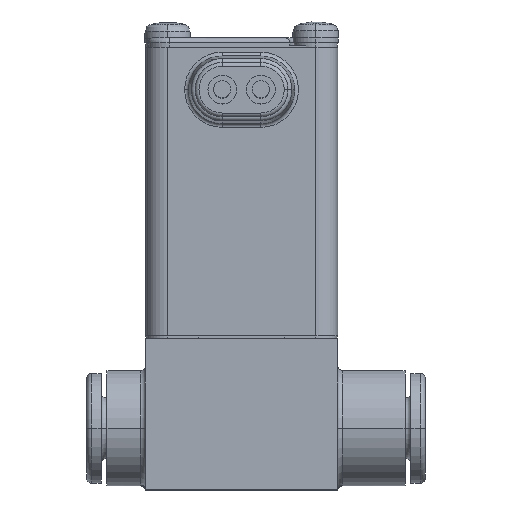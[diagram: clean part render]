
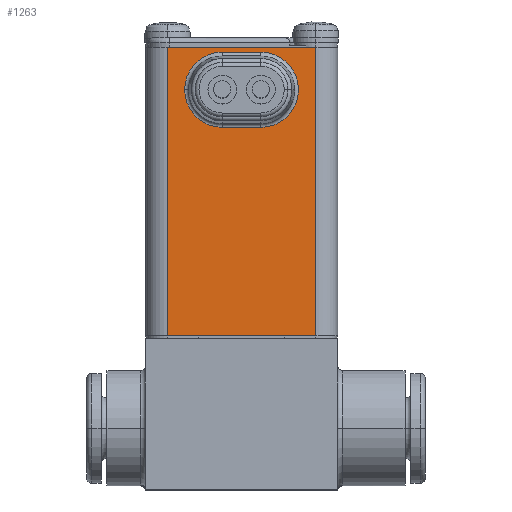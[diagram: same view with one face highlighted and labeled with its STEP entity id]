
A CAD part, top view. The second image highlights one B-rep face of the part: STEP entity #1263.
In plain terms, the highlighted planar face has unit normal (0, 0, 1).
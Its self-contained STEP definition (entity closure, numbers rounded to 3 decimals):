
#161 = DIRECTION ( 'NONE',  ( 0., -1., 0. ) ) ;
#227 = VECTOR ( 'NONE', #3368, 1000. ) ;
#448 = ORIENTED_EDGE ( 'NONE', *, *, #7078, .T. ) ;
#658 = VERTEX_POINT ( 'NONE', #4236 ) ;
#803 = ORIENTED_EDGE ( 'NONE', *, *, #4592, .T. ) ;
#959 = CIRCLE ( 'NONE', #7308, 3.916 ) ;
#1263 = ADVANCED_FACE ( 'NONE', ( #2803, #5585 ), #8326, .F. ) ;
#1338 = CARTESIAN_POINT ( 'NONE',  ( -10., 29.516, 10. ) ) ;
#1394 = ORIENTED_EDGE ( 'NONE', *, *, #1571, .F. ) ;
#1406 = DIRECTION ( 'NONE',  ( -1., 0., 0. ) ) ;
#1423 = VECTOR ( 'NONE', #7101, 1000. ) ;
#1426 = CARTESIAN_POINT ( 'NONE',  ( -10., 30., 10. ) ) ;
#1571 = EDGE_CURVE ( 'NONE', #7964, #6382, #7585, .T. ) ;
#1661 = CARTESIAN_POINT ( 'NONE',  ( -7.7, 30., 10. ) ) ;
#1681 = EDGE_CURVE ( 'NONE', #658, #4783, #4598, .T. ) ;
#1801 = CIRCLE ( 'NONE', #8574, 3.916 ) ;
#1940 = AXIS2_PLACEMENT_3D ( 'NONE', #9037, #4646, #2557 ) ;
#2091 = DIRECTION ( 'NONE',  ( 0., 0., -1. ) ) ;
#2557 = DIRECTION ( 'NONE',  ( -1., 0., 0. ) ) ;
#2681 = CARTESIAN_POINT ( 'NONE',  ( -7.7, 30., 10. ) ) ;
#2803 = FACE_BOUND ( 'NONE', #6884, .T. ) ;
#2897 = ORIENTED_EDGE ( 'NONE', *, *, #4028, .T. ) ;
#2993 = LINE ( 'NONE', #5083, #3704 ) ;
#3322 = ORIENTED_EDGE ( 'NONE', *, *, #6069, .T. ) ;
#3342 = CARTESIAN_POINT ( 'NONE',  ( -10., 30., 10. ) ) ;
#3365 = CARTESIAN_POINT ( 'NONE',  ( 2., 21.684, 10. ) ) ;
#3368 = DIRECTION ( 'NONE',  ( 1., 0., 0. ) ) ;
#3434 = VERTEX_POINT ( 'NONE', #8918 ) ;
#3651 = CARTESIAN_POINT ( 'NONE',  ( 7.7, 30., 10. ) ) ;
#3704 = VECTOR ( 'NONE', #4019, 1000. ) ;
#3942 = EDGE_LOOP ( 'NONE', ( #7826, #4265, #1394, #803 ) ) ;
#4019 = DIRECTION ( 'NONE',  ( 0., 1., 0. ) ) ;
#4028 = EDGE_CURVE ( 'NONE', #5796, #8597, #959, .T. ) ;
#4236 = CARTESIAN_POINT ( 'NONE',  ( -7.7, 0., 10. ) ) ;
#4243 = EDGE_CURVE ( 'NONE', #7081, #3434, #7480, .T. ) ;
#4265 = ORIENTED_EDGE ( 'NONE', *, *, #8115, .T. ) ;
#4288 = DIRECTION ( 'NONE',  ( 0., 0., -1. ) ) ;
#4382 = CARTESIAN_POINT ( 'NONE',  ( -2., 25.6, 10. ) ) ;
#4478 = DIRECTION ( 'NONE',  ( -1., 0., 0. ) ) ;
#4592 = EDGE_CURVE ( 'NONE', #7964, #658, #7993, .T. ) ;
#4598 = LINE ( 'NONE', #6079, #6283 ) ;
#4646 = DIRECTION ( 'NONE',  ( 0., 0., -1. ) ) ;
#4663 = VECTOR ( 'NONE', #161, 1000. ) ;
#4783 = VERTEX_POINT ( 'NONE', #8471 ) ;
#4931 = CARTESIAN_POINT ( 'NONE',  ( -2., 21.684, 10. ) ) ;
#5083 = CARTESIAN_POINT ( 'NONE',  ( 7.7, 30., 10. ) ) ;
#5467 = DIRECTION ( 'NONE',  ( 1., 0., 0. ) ) ;
#5585 = FACE_OUTER_BOUND ( 'NONE', #3942, .T. ) ;
#5741 = CARTESIAN_POINT ( 'NONE',  ( -2., 29.516, 10. ) ) ;
#5796 = VERTEX_POINT ( 'NONE', #4931 ) ;
#6069 = EDGE_CURVE ( 'NONE', #6661, #5796, #6743, .T. ) ;
#6079 = CARTESIAN_POINT ( 'NONE',  ( -10., 0., 10. ) ) ;
#6153 = DIRECTION ( 'NONE',  ( -1., 0., 0. ) ) ;
#6283 = VECTOR ( 'NONE', #5467, 1000. ) ;
#6382 = VERTEX_POINT ( 'NONE', #3651 ) ;
#6513 = DIRECTION ( 'NONE',  ( -1., 0., 0. ) ) ;
#6661 = VERTEX_POINT ( 'NONE', #3365 ) ;
#6669 = EDGE_CURVE ( 'NONE', #8597, #7081, #6796, .T. ) ;
#6693 = ORIENTED_EDGE ( 'NONE', *, *, #6669, .T. ) ;
#6743 = LINE ( 'NONE', #8735, #8550 ) ;
#6796 = CIRCLE ( 'NONE', #1940, 3.916 ) ;
#6884 = EDGE_LOOP ( 'NONE', ( #8902, #448, #3322, #2897, #6693 ) ) ;
#7078 = EDGE_CURVE ( 'NONE', #3434, #6661, #1801, .T. ) ;
#7081 = VERTEX_POINT ( 'NONE', #5741 ) ;
#7101 = DIRECTION ( 'NONE',  ( 1., 0., 0. ) ) ;
#7308 = AXIS2_PLACEMENT_3D ( 'NONE', #4382, #4288, #6513 ) ;
#7480 = LINE ( 'NONE', #1338, #227 ) ;
#7585 = LINE ( 'NONE', #1426, #1423 ) ;
#7826 = ORIENTED_EDGE ( 'NONE', *, *, #1681, .T. ) ;
#7964 = VERTEX_POINT ( 'NONE', #2681 ) ;
#7993 = LINE ( 'NONE', #1661, #4663 ) ;
#8115 = EDGE_CURVE ( 'NONE', #4783, #6382, #2993, .T. ) ;
#8326 = PLANE ( 'NONE',  #8927 ) ;
#8459 = DIRECTION ( 'NONE',  ( 0., 0., -1. ) ) ;
#8471 = CARTESIAN_POINT ( 'NONE',  ( 7.7, 0., 10. ) ) ;
#8550 = VECTOR ( 'NONE', #4478, 1000. ) ;
#8574 = AXIS2_PLACEMENT_3D ( 'NONE', #9065, #8459, #1406 ) ;
#8597 = VERTEX_POINT ( 'NONE', #8853 ) ;
#8735 = CARTESIAN_POINT ( 'NONE',  ( -10., 21.684, 10. ) ) ;
#8853 = CARTESIAN_POINT ( 'NONE',  ( -5.916, 25.6, 10. ) ) ;
#8902 = ORIENTED_EDGE ( 'NONE', *, *, #4243, .T. ) ;
#8918 = CARTESIAN_POINT ( 'NONE',  ( 2., 29.516, 10. ) ) ;
#8927 = AXIS2_PLACEMENT_3D ( 'NONE', #3342, #2091, #6153 ) ;
#9037 = CARTESIAN_POINT ( 'NONE',  ( -2., 25.6, 10. ) ) ;
#9065 = CARTESIAN_POINT ( 'NONE',  ( 2., 25.6, 10. ) ) ;
